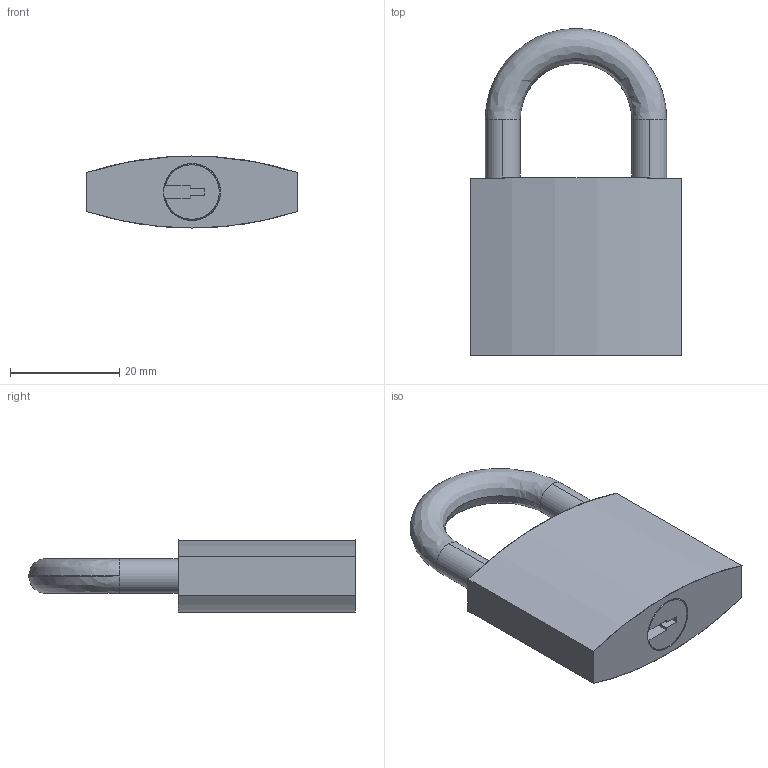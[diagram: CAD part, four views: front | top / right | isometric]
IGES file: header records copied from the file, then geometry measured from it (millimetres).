
Start section: SolidWorks IGES file using analytic representation for surfaces
Bounding box: 38.5 x 59.9 x 13.2 mm (x, y, z)
Surface area: 5157.9 mm2 (no closed solid volume)
Topology: 0 solids, 0 shells, 27 faces, 286 edges, 286 vertices
Faces by surface type: bspline 15, revolution 12
